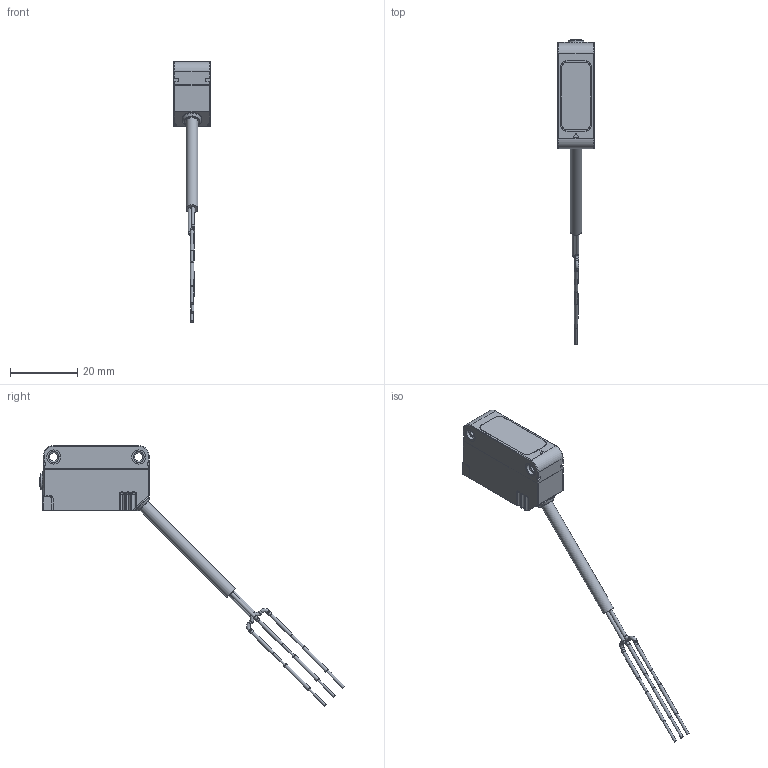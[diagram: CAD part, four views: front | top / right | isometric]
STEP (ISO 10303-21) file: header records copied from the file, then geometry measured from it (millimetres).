
FILE_DESCRIPTION(/* description */ (''),/* implementation_level */ '2;1');
FILE_NAME(/* name */ 'DSD-1153.stp',/* time_stamp */ '2024-06-24T18:25:59+02:00',/* author */ (''),/* organization */ (''),/* preprocessor_version */ 'ST-DEVELOPER v16.701',/* originating_system */ 'SIEMENS PLM Software NX 1946',/* authorisation */ '');
FILE_SCHEMA (('AUTOMOTIVE_DESIGN { 1 0 10303 214 3 1 1 1 }'));
Products named in the file (3): AP061288_00-Bottom Cover per DSD 1153; AP061285_00-Optic Box Group per DSD; AS008632_00-S3N - DSD
Assembly tree (2 placements, depth 2):
  AS008632_00-S3N - DSD
    AP061285_00-Optic Box Group per DSD
    AP061288_00-Bottom Cover per DSD 1153
Bounding box: 10.82 x 91.02 x 77.84 mm (x, y, z)
Volume: 6963.8 mm3; surface area: 5533.3 mm2
Topology: 10 solids, 32 shells, 1540 faces, 3977 edges, 2541 vertices
Faces by surface type: plane 629, extrusion 309, cylinder 276, bspline 132, torus 99, sphere 54, cone 41
Full cylindrical faces by diameter (mm): 0.5 x2, 0.8 x6, 1.05 x14, 2.4 x1, 2.5 x2, 3.2 x4, 3.454 x1, 3.5 x2, 3.8 x1, 4.2 x8, 4.244 x1, 4.5 x2, 4.85 x1, 5.9 x1
Entity records: 55073 total; most frequent: CARTESIAN_POINT 19755, ORIENTED_EDGE 7541, DIRECTION 6087, EDGE_CURVE 3834, VERTEX_POINT 2515, VECTOR 2239, LINE 1930, AXIS2_PLACEMENT_3D 1924
